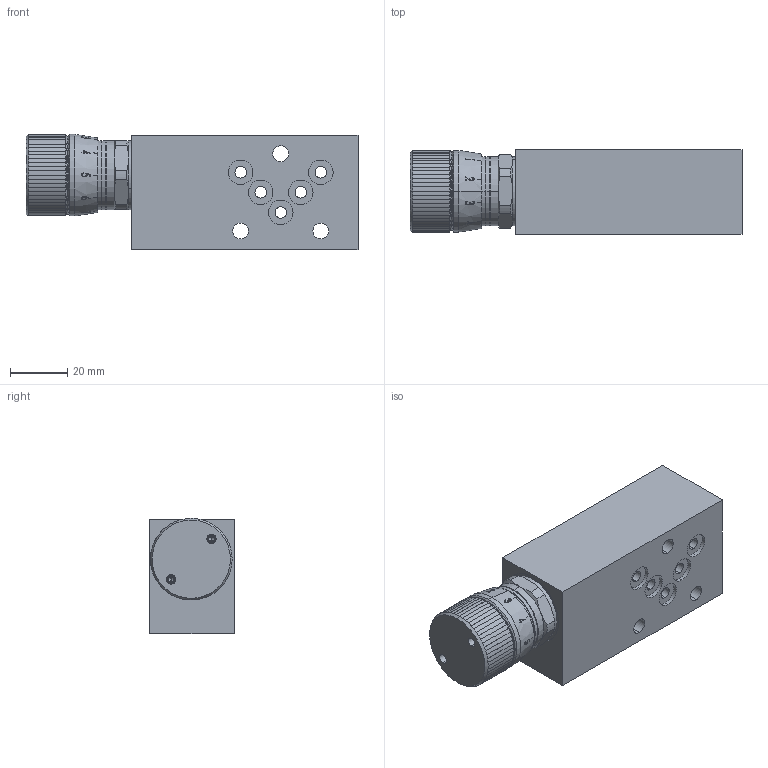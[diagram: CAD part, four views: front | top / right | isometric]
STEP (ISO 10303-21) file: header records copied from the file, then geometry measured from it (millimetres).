
FILE_DESCRIPTION (( 'STEP AP214' ), '1' );
FILE_NAME ('BDRT4.STEP', '2017-04-10T12:48:42', ( '' ), ( '' ), 'SwSTEP 2.0', 'SolidWorks 2016', '' );
FILE_SCHEMA (( 'AUTOMOTIVE_DESIGN' ));
Length unit declared in the file: millimetre
Products named in the file (1): BDRT4
Bounding box: 116 x 29.5 x 40.25 mm (x, y, z)
Volume: 109790 mm3; surface area: 20757.7 mm2
Topology: 1 solids, 1 shells, 621 faces, 1691 edges, 1104 vertices
Faces by surface type: plane 372, cylinder 129, bspline 72, cone 43, torus 5
Entity records: 30476 total; most frequent: CARTESIAN_POINT 9169, ORIENTED_EDGE 3370, DIRECTION 2478, EDGE_CURVE 1685, VERTEX_POINT 1104, AXIS2_PLACEMENT_3D 898, VECTOR 682, LINE 682
